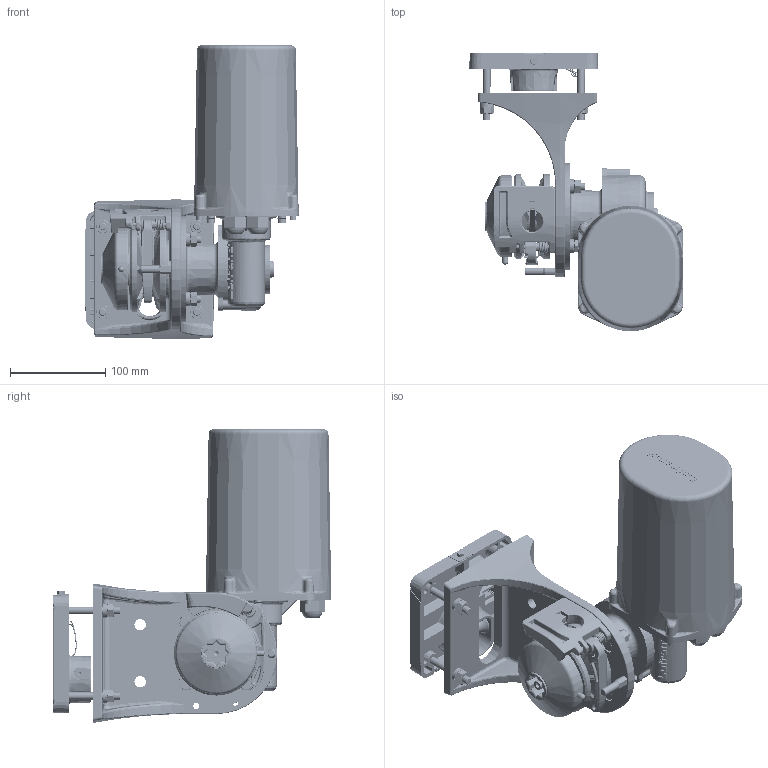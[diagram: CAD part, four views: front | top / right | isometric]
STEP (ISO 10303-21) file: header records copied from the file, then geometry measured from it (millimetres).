
FILE_DESCRIPTION(('CATIA V5 STEP Exchange','CAx-IF Rec.Pracs.--- Model Styling and Organization---1.4--- 2014-01-23'),'2;1');
FILE_NAME('F:\02. Other Dpts\02. Service Supervisor\Gecko(for site)\Gecko Stern Windlass1.stp','2024-03-21T14:03:46+00:00',('none'),('none'),'CATIA Version 5-6 Release 2016','CATIA V5 STEP AP214','none');
FILE_SCHEMA(('AUTOMOTIVE_DESIGN { 1 0 10303 214 1 1 1 1 }'));
Length unit declared in the file: millimetre
Products named in the file (1): Gecko Stern Windlass
Bounding box: 224.28 x 293 x 309.5 mm (x, y, z)
Volume: 1508991.2 mm3; surface area: 583991 mm2
Topology: 5 solids, 37 shells, 5266 faces, 13233 edges, 8084 vertices
Faces by surface type: bspline 1412, cylinder 1312, plane 1235, cone 585, torus 554, sphere 116, extrusion 48, revolution 4
Entity records: 198163 total; most frequent: CARTESIAN_POINT 91265, ORIENTED_EDGE 26172, DIRECTION 14651, EDGE_CURVE 13086, VERTEX_POINT 8078, AXIS2_PLACEMENT_3D 7182, EDGE_LOOP 5582, ADVANCED_FACE 5263
